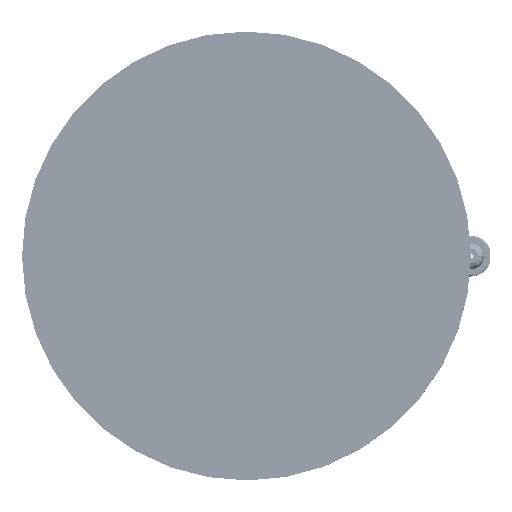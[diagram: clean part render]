
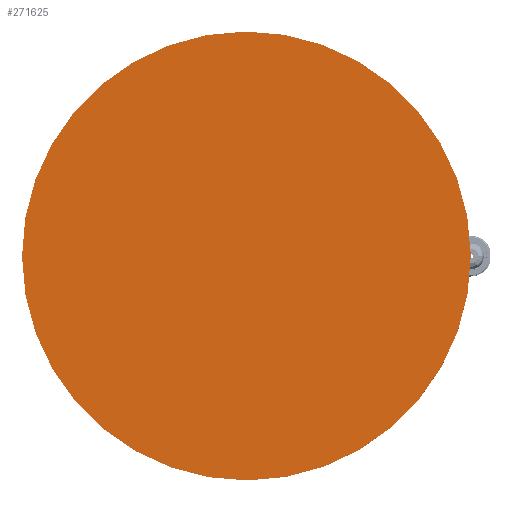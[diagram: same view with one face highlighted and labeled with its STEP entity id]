
A CAD part, top view. The second image highlights one B-rep face of the part: STEP entity #271625.
In plain terms, the highlighted planar face has unit normal (0, 0, 1).
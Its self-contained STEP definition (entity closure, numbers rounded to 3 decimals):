
#3480 = CIRCLE ( 'NONE', #146058, 550. ) ;
#19221 = DIRECTION ( 'NONE',  ( 0., 0., 1. ) ) ;
#53620 = CARTESIAN_POINT ( 'NONE',  ( 0., 0., 130. ) ) ;
#55024 = FACE_OUTER_BOUND ( 'NONE', #119975, .T. ) ;
#88100 = DIRECTION ( 'NONE',  ( 1., 0., 0. ) ) ;
#95411 = PLANE ( 'NONE',  #96866 ) ;
#96866 = AXIS2_PLACEMENT_3D ( 'NONE', #53620, #187553, #250933 ) ;
#102735 = DIRECTION ( 'NONE',  ( 1., 0., 0. ) ) ;
#115307 = CARTESIAN_POINT ( 'NONE',  ( 0., 0., 130. ) ) ;
#119975 = EDGE_LOOP ( 'NONE', ( #158841, #199572 ) ) ;
#140292 = VERTEX_POINT ( 'NONE', #216064 ) ;
#146058 = AXIS2_PLACEMENT_3D ( 'NONE', #170402, #19221, #102735 ) ;
#158841 = ORIENTED_EDGE ( 'NONE', *, *, #219646, .T. ) ;
#170402 = CARTESIAN_POINT ( 'NONE',  ( 0., 0., 130. ) ) ;
#179853 = VERTEX_POINT ( 'NONE', #232803 ) ;
#187553 = DIRECTION ( 'NONE',  ( 0., 0., 1. ) ) ;
#191093 = CIRCLE ( 'NONE', #282997, 550. ) ;
#199572 = ORIENTED_EDGE ( 'NONE', *, *, #276160, .T. ) ;
#216064 = CARTESIAN_POINT ( 'NONE',  ( 550., 0., 130. ) ) ;
#219646 = EDGE_CURVE ( 'NONE', #179853, #140292, #191093, .T. ) ;
#232803 = CARTESIAN_POINT ( 'NONE',  ( -550., 0., 130. ) ) ;
#250933 = DIRECTION ( 'NONE',  ( 1., 0., 0. ) ) ;
#265218 = DIRECTION ( 'NONE',  ( 0., 0., 1. ) ) ;
#271625 = ADVANCED_FACE ( 'NONE', ( #55024 ), #95411, .T. ) ;
#276160 = EDGE_CURVE ( 'NONE', #140292, #179853, #3480, .T. ) ;
#282997 = AXIS2_PLACEMENT_3D ( 'NONE', #115307, #265218, #88100 ) ;
